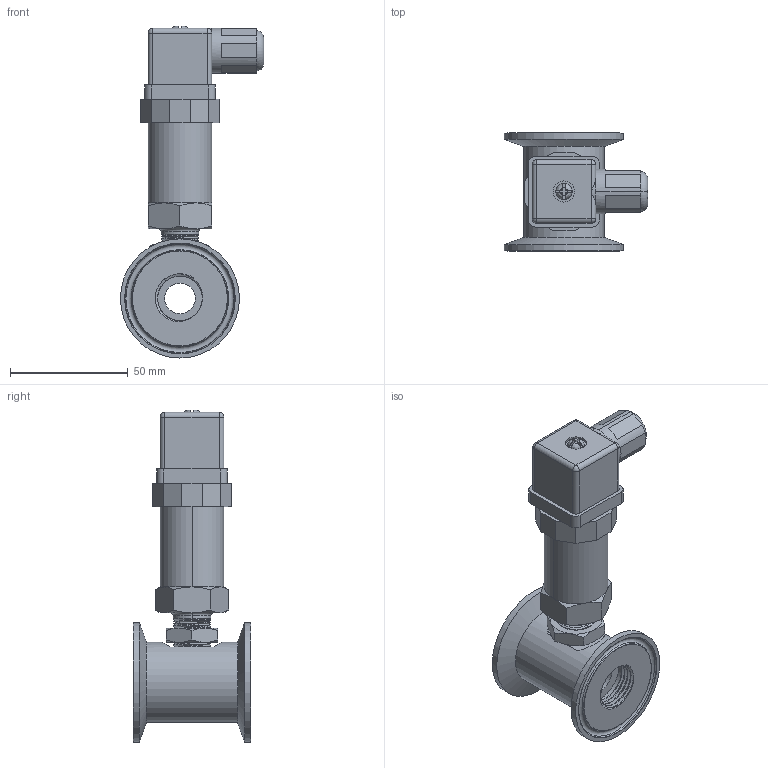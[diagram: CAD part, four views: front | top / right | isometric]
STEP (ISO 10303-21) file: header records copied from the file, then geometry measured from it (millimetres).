
FILE_DESCRIPTION( (''), '2;1');
FILE_NAME( 'QTKB_DN12_tri-clamp_DIN-plug.step', '2024-10-12T16:17:45+08:00', (''), (''), '', '', '');
FILE_SCHEMA (('AUTOMOTIVE_DESIGN { 1 0 10303 214 3 1 1 1 }'));
Length unit declared in the file: millimetre
Products named in the file (1): QTKB DN12_tri-clamp_DIN-plug
Bounding box: 60.73 x 50 x 140.75 mm (x, y, z)
Volume: 109714.2 mm3; surface area: 34690.5 mm2
Topology: 5 solids, 6 shells, 387 faces, 1021 edges, 666 vertices
Faces by surface type: plane 246, cylinder 60, cone 45, bspline 22, torus 10, sphere 4
Full cylindrical faces by diameter (mm): 13 x1, 17 x1, 21 x2, 34 x1, 50.5 x2
Entity records: 17487 total; most frequent: CARTESIAN_POINT 8179, ORIENTED_EDGE 1982, DIRECTION 1761, EDGE_CURVE 991, VERTEX_POINT 659, LINE 625, VECTOR 625, AXIS2_PLACEMENT_3D 568
